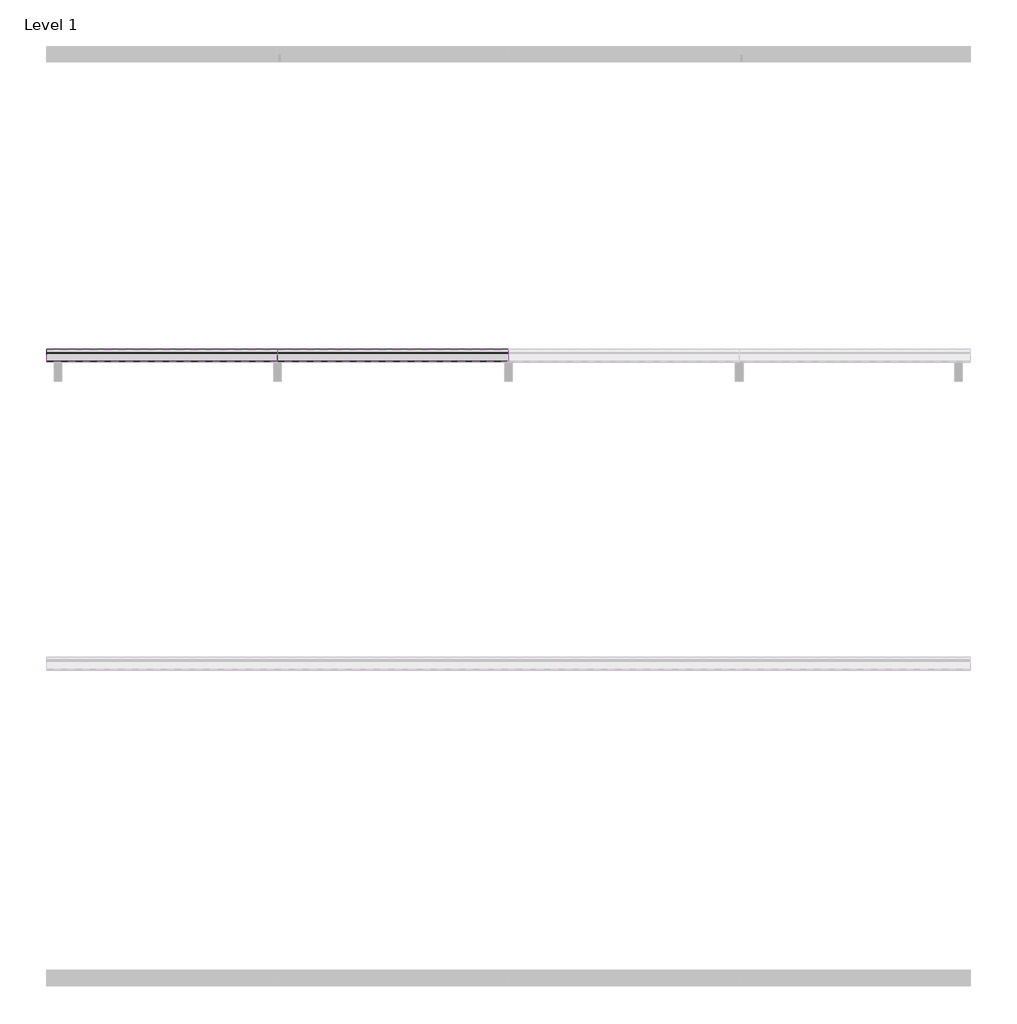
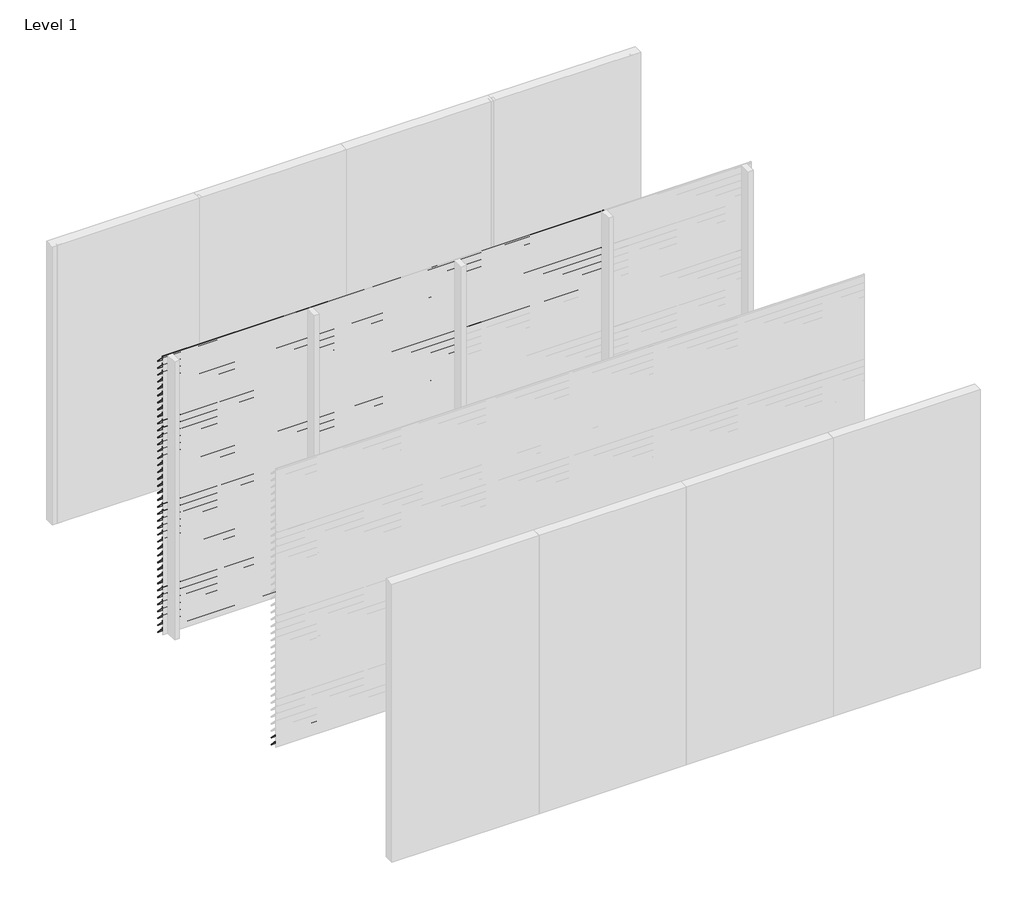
# One storey, part 2 of 9: 93 proxies.
"""IFC4 building model written with IfcOpenShell, lengths in millimetres."""

from ifc_helpers import new_model, si_unit, frame, origin, place, context, project, spatial, polyline, outline, extrude, element, save

model = new_model("IFC4")

# Units and contexts
model_context = context("Model", 3, world=origin())
ifc_project = project(units=[si_unit("LENGTHUNIT", "METRE", prefix="MILLI")], contexts=[model_context])

# Site, building, storey
site = spatial("IfcSite", under=ifc_project)
building = spatial("IfcBuilding", under=site)
storey = spatial("IfcBuildingStorey", under=building, Name="Level 1", Elevation=0.0)

# Proxies
placement = place(None, origin())
element("IfcBuildingElementProxy", 1, Name="Wall Sweeps", at=placement, inside=storey, context=model_context, shape_type="SweptSolid", body=[
    extrude(outline(polyline([(-17995.0, 3000.0), (-17995.0, 2987.7713645), (-17917.0, 2907.0), (-17917.0, 2898.0), (-17997.0, 2980.8424251), (-17997.0, 3000.0), (-17995.0, 3000.0)])), frame((3000.0, 0.0, 0.0), z_axis=(1.0, 0.0, 0.0), x_axis=(0.0, 1.0, 0.0)), (0.0, 0.0, 1.0), 1499.9999998),
])
element("IfcBuildingElementProxy", 2, Name="Wall Sweeps", at=placement, inside=storey, context=model_context, shape_type="SweptSolid", body=[
    extrude(outline(polyline([(-17995.0, 2925.0), (-17995.0, 2912.7713645), (-17917.0, 2832.0), (-17917.0, 2823.0), (-17997.0, 2905.8424251), (-17997.0, 2925.0), (-17995.0, 2925.0)])), frame((3000.0, 0.0, 0.0), z_axis=(1.0, 0.0, 0.0), x_axis=(0.0, 1.0, 0.0)), (0.0, 0.0, 1.0), 1499.9999998),
])
element("IfcBuildingElementProxy", 3, Name="Wall Sweeps", at=placement, inside=storey, context=model_context, shape_type="SweptSolid", body=[
    extrude(outline(polyline([(-17995.0, 2850.0), (-17995.0, 2837.7713645), (-17917.0, 2757.0), (-17917.0, 2748.0), (-17997.0, 2830.8424251), (-17997.0, 2850.0), (-17995.0, 2850.0)])), frame((3000.0, 0.0, 0.0), z_axis=(1.0, 0.0, 0.0), x_axis=(0.0, 1.0, 0.0)), (0.0, 0.0, 1.0), 1499.9999998),
])
element("IfcBuildingElementProxy", 4, Name="Wall Sweeps", at=placement, inside=storey, context=model_context, shape_type="SweptSolid", body=[
    extrude(outline(polyline([(-17995.0, 2775.0), (-17995.0, 2762.7713645), (-17917.0, 2682.0), (-17917.0, 2673.0), (-17997.0, 2755.8424251), (-17997.0, 2775.0), (-17995.0, 2775.0)])), frame((3000.0, 0.0, 0.0), z_axis=(1.0, 0.0, 0.0), x_axis=(0.0, 1.0, 0.0)), (0.0, 0.0, 1.0), 1499.9999998),
])
element("IfcBuildingElementProxy", 5, Name="Wall Sweeps", at=placement, inside=storey, context=model_context, shape_type="SweptSolid", body=[
    extrude(outline(polyline([(-17995.0, 2700.0), (-17995.0, 2687.7713645), (-17917.0, 2607.0), (-17917.0, 2598.0), (-17997.0, 2680.8424251), (-17997.0, 2700.0), (-17995.0, 2700.0)])), frame((3000.0, 0.0, 0.0), z_axis=(1.0, 0.0, 0.0), x_axis=(0.0, 1.0, 0.0)), (0.0, 0.0, 1.0), 1499.9999998),
])
element("IfcBuildingElementProxy", 6, Name="Wall Sweeps", at=placement, inside=storey, context=model_context, shape_type="SweptSolid", body=[
    extrude(outline(polyline([(-17995.0, 2625.0), (-17995.0, 2612.7713645), (-17917.0, 2532.0), (-17917.0, 2523.0), (-17997.0, 2605.8424251), (-17997.0, 2625.0), (-17995.0, 2625.0)])), frame((3000.0, 0.0, 0.0), z_axis=(1.0, 0.0, 0.0), x_axis=(0.0, 1.0, 0.0)), (0.0, 0.0, 1.0), 1499.9999998),
])
element("IfcBuildingElementProxy", 7, Name="Wall Sweeps", at=placement, inside=storey, context=model_context, shape_type="SweptSolid", body=[
    extrude(outline(polyline([(-17995.0, 2550.0), (-17995.0, 2537.7713645), (-17917.0, 2457.0), (-17917.0, 2448.0), (-17997.0, 2530.8424251), (-17997.0, 2550.0), (-17995.0, 2550.0)])), frame((3000.0, 0.0, 0.0), z_axis=(1.0, 0.0, 0.0), x_axis=(0.0, 1.0, 0.0)), (0.0, 0.0, 1.0), 1499.9999998),
])
element("IfcBuildingElementProxy", 8, Name="Wall Sweeps", at=placement, inside=storey, context=model_context, shape_type="SweptSolid", body=[
    extrude(outline(polyline([(-17995.0, 2475.0), (-17995.0, 2462.7713645), (-17917.0, 2382.0), (-17917.0, 2373.0), (-17997.0, 2455.8424251), (-17997.0, 2475.0), (-17995.0, 2475.0)])), frame((3000.0, 0.0, 0.0), z_axis=(1.0, 0.0, 0.0), x_axis=(0.0, 1.0, 0.0)), (0.0, 0.0, 1.0), 1499.9999998),
])
element("IfcBuildingElementProxy", 9, Name="Wall Sweeps", at=placement, inside=storey, context=model_context, shape_type="SweptSolid", body=[
    extrude(outline(polyline([(-17995.0, 2400.0), (-17995.0, 2387.7713645), (-17917.0, 2307.0), (-17917.0, 2298.0), (-17997.0, 2380.8424251), (-17997.0, 2400.0), (-17995.0, 2400.0)])), frame((3000.0, 0.0, 0.0), z_axis=(1.0, 0.0, 0.0), x_axis=(0.0, 1.0, 0.0)), (0.0, 0.0, 1.0), 1499.9999998),
])
element("IfcBuildingElementProxy", 10, Name="Wall Sweeps", at=placement, inside=storey, context=model_context, shape_type="SweptSolid", body=[
    extrude(outline(polyline([(-17995.0, 2325.0), (-17995.0, 2312.7713645), (-17917.0, 2232.0), (-17917.0, 2223.0), (-17997.0, 2305.8424251), (-17997.0, 2325.0), (-17995.0, 2325.0)])), frame((3000.0, 0.0, 0.0), z_axis=(1.0, 0.0, 0.0), x_axis=(0.0, 1.0, 0.0)), (0.0, 0.0, 1.0), 1499.9999998),
])
element("IfcBuildingElementProxy", 11, Name="Wall Sweeps", at=placement, inside=storey, context=model_context, shape_type="SweptSolid", body=[
    extrude(outline(polyline([(-17995.0, 2250.0), (-17995.0, 2237.7713645), (-17917.0, 2157.0), (-17917.0, 2148.0), (-17997.0, 2230.8424251), (-17997.0, 2250.0), (-17995.0, 2250.0)])), frame((3000.0, 0.0, 0.0), z_axis=(1.0, 0.0, 0.0), x_axis=(0.0, 1.0, 0.0)), (0.0, 0.0, 1.0), 1499.9999998),
])
element("IfcBuildingElementProxy", 12, Name="Wall Sweeps", at=placement, inside=storey, context=model_context, shape_type="SweptSolid", body=[
    extrude(outline(polyline([(-17995.0, 3000.0), (-17995.0, 2987.7713645), (-17917.0, 2907.0), (-17917.0, 2898.0), (-17997.0, 2980.8424251), (-17997.0, 3000.0), (-17995.0, 3000.0)])), frame((1500.0000002, 0.0, 0.0), z_axis=(1.0, 0.0, 0.0), x_axis=(0.0, 1.0, 0.0)), (0.0, 0.0, 1.0), 1499.9999998),
])
element("IfcBuildingElementProxy", 13, Name="Wall Sweeps", at=placement, inside=storey, context=model_context, shape_type="SweptSolid", body=[
    extrude(outline(polyline([(-17995.0, 2925.0), (-17995.0, 2912.7713645), (-17917.0, 2832.0), (-17917.0, 2823.0), (-17997.0, 2905.8424251), (-17997.0, 2925.0), (-17995.0, 2925.0)])), frame((1500.0000002, 0.0, 0.0), z_axis=(1.0, 0.0, 0.0), x_axis=(0.0, 1.0, 0.0)), (0.0, 0.0, 1.0), 1499.9999998),
])
element("IfcBuildingElementProxy", 14, Name="Wall Sweeps", at=placement, inside=storey, context=model_context, shape_type="SweptSolid", body=[
    extrude(outline(polyline([(-17995.0, 2850.0), (-17995.0, 2837.7713645), (-17917.0, 2757.0), (-17917.0, 2748.0), (-17997.0, 2830.8424251), (-17997.0, 2850.0), (-17995.0, 2850.0)])), frame((1500.0000002, 0.0, 0.0), z_axis=(1.0, 0.0, 0.0), x_axis=(0.0, 1.0, 0.0)), (0.0, 0.0, 1.0), 1499.9999998),
])
element("IfcBuildingElementProxy", 15, Name="Wall Sweeps", at=placement, inside=storey, context=model_context, shape_type="SweptSolid", body=[
    extrude(outline(polyline([(-17995.0, 2775.0), (-17995.0, 2762.7713645), (-17917.0, 2682.0), (-17917.0, 2673.0), (-17997.0, 2755.8424251), (-17997.0, 2775.0), (-17995.0, 2775.0)])), frame((1500.0000002, 0.0, 0.0), z_axis=(1.0, 0.0, 0.0), x_axis=(0.0, 1.0, 0.0)), (0.0, 0.0, 1.0), 1499.9999998),
])
element("IfcBuildingElementProxy", 16, Name="Wall Sweeps", at=placement, inside=storey, context=model_context, shape_type="SweptSolid", body=[
    extrude(outline(polyline([(-17995.0, 2700.0), (-17995.0, 2687.7713645), (-17917.0, 2607.0), (-17917.0, 2598.0), (-17997.0, 2680.8424251), (-17997.0, 2700.0), (-17995.0, 2700.0)])), frame((1500.0000002, 0.0, 0.0), z_axis=(1.0, 0.0, 0.0), x_axis=(0.0, 1.0, 0.0)), (0.0, 0.0, 1.0), 1499.9999998),
])
element("IfcBuildingElementProxy", 17, Name="Wall Sweeps", at=placement, inside=storey, context=model_context, shape_type="SweptSolid", body=[
    extrude(outline(polyline([(-17995.0, 2625.0), (-17995.0, 2612.7713645), (-17917.0, 2532.0), (-17917.0, 2523.0), (-17997.0, 2605.8424251), (-17997.0, 2625.0), (-17995.0, 2625.0)])), frame((1500.0000002, 0.0, 0.0), z_axis=(1.0, 0.0, 0.0), x_axis=(0.0, 1.0, 0.0)), (0.0, 0.0, 1.0), 1499.9999998),
])
element("IfcBuildingElementProxy", 18, Name="Wall Sweeps", at=placement, inside=storey, context=model_context, shape_type="SweptSolid", body=[
    extrude(outline(polyline([(-17995.0, 2550.0), (-17995.0, 2537.7713645), (-17917.0, 2457.0), (-17917.0, 2448.0), (-17997.0, 2530.8424251), (-17997.0, 2550.0), (-17995.0, 2550.0)])), frame((1500.0000002, 0.0, 0.0), z_axis=(1.0, 0.0, 0.0), x_axis=(0.0, 1.0, 0.0)), (0.0, 0.0, 1.0), 1499.9999998),
])
element("IfcBuildingElementProxy", 19, Name="Wall Sweeps", at=placement, inside=storey, context=model_context, shape_type="SweptSolid", body=[
    extrude(outline(polyline([(-17995.0, 2475.0), (-17995.0, 2462.7713645), (-17917.0, 2382.0), (-17917.0, 2373.0), (-17997.0, 2455.8424251), (-17997.0, 2475.0), (-17995.0, 2475.0)])), frame((1500.0000002, 0.0, 0.0), z_axis=(1.0, 0.0, 0.0), x_axis=(0.0, 1.0, 0.0)), (0.0, 0.0, 1.0), 1499.9999998),
])
element("IfcBuildingElementProxy", 20, Name="Wall Sweeps", at=placement, inside=storey, context=model_context, shape_type="SweptSolid", body=[
    extrude(outline(polyline([(-17995.0, 2400.0), (-17995.0, 2387.7713645), (-17917.0, 2307.0), (-17917.0, 2298.0), (-17997.0, 2380.8424251), (-17997.0, 2400.0), (-17995.0, 2400.0)])), frame((1500.0000002, 0.0, 0.0), z_axis=(1.0, 0.0, 0.0), x_axis=(0.0, 1.0, 0.0)), (0.0, 0.0, 1.0), 1499.9999998),
])
element("IfcBuildingElementProxy", 21, Name="Wall Sweeps", at=placement, inside=storey, context=model_context, shape_type="SweptSolid", body=[
    extrude(outline(polyline([(-17995.0, 2325.0), (-17995.0, 2312.7713645), (-17917.0, 2232.0), (-17917.0, 2223.0), (-17997.0, 2305.8424251), (-17997.0, 2325.0), (-17995.0, 2325.0)])), frame((1500.0000002, 0.0, 0.0), z_axis=(1.0, 0.0, 0.0), x_axis=(0.0, 1.0, 0.0)), (0.0, 0.0, 1.0), 1499.9999998),
])
element("IfcBuildingElementProxy", 22, Name="Wall Sweeps", at=placement, inside=storey, context=model_context, shape_type="SweptSolid", body=[
    extrude(outline(polyline([(-17995.0, 2250.0), (-17995.0, 2237.7713645), (-17917.0, 2157.0), (-17917.0, 2148.0), (-17997.0, 2230.8424251), (-17997.0, 2250.0), (-17995.0, 2250.0)])), frame((1500.0000002, 0.0, 0.0), z_axis=(1.0, 0.0, 0.0), x_axis=(0.0, 1.0, 0.0)), (0.0, 0.0, 1.0), 1499.9999998),
])
element("IfcBuildingElementProxy", 23, Name="Wall Sweeps", at=placement, inside=storey, context=model_context, shape_type="SweptSolid", body=[
    extrude(outline(polyline([(-17995.0, 2175.0), (-17995.0, 2162.7713645), (-17917.0, 2082.0), (-17917.0, 2073.0), (-17997.0, 2155.8424251), (-17997.0, 2175.0), (-17995.0, 2175.0)])), frame((1500.0000002, 0.0, 0.0), z_axis=(1.0, 0.0, 0.0), x_axis=(0.0, 1.0, 0.0)), (0.0, 0.0, 1.0), 1499.9999998),
])
element("IfcBuildingElementProxy", 24, Name="Wall Sweeps", at=placement, inside=storey, context=model_context, shape_type="SweptSolid", body=[
    extrude(outline(polyline([(-17995.0, 2100.0), (-17995.0, 2087.7713645), (-17917.0, 2007.0), (-17917.0, 1998.0), (-17997.0, 2080.8424251), (-17997.0, 2100.0), (-17995.0, 2100.0)])), frame((1500.0000002, 0.0, 0.0), z_axis=(1.0, 0.0, 0.0), x_axis=(0.0, 1.0, 0.0)), (0.0, 0.0, 1.0), 1499.9999998),
])
element("IfcBuildingElementProxy", 25, Name="Wall Sweeps", at=placement, inside=storey, context=model_context, shape_type="SweptSolid", body=[
    extrude(outline(polyline([(-17995.0, 2025.0), (-17995.0, 2012.7713645), (-17917.0, 1932.0), (-17917.0, 1923.0), (-17997.0, 2005.8424251), (-17997.0, 2025.0), (-17995.0, 2025.0)])), frame((1500.0000002, 0.0, 0.0), z_axis=(1.0, 0.0, 0.0), x_axis=(0.0, 1.0, 0.0)), (0.0, 0.0, 1.0), 1499.9999998),
])
element("IfcBuildingElementProxy", 26, Name="Wall Sweeps", at=placement, inside=storey, context=model_context, shape_type="SweptSolid", body=[
    extrude(outline(polyline([(-17995.0, 1950.0), (-17995.0, 1937.7713645), (-17917.0, 1857.0), (-17917.0, 1848.0), (-17997.0, 1930.8424251), (-17997.0, 1950.0), (-17995.0, 1950.0)])), frame((1500.0000002, 0.0, 0.0), z_axis=(1.0, 0.0, 0.0), x_axis=(0.0, 1.0, 0.0)), (0.0, 0.0, 1.0), 1499.9999998),
])
element("IfcBuildingElementProxy", 27, Name="Wall Sweeps", at=placement, inside=storey, context=model_context, shape_type="SweptSolid", body=[
    extrude(outline(polyline([(-17995.0, 1875.0), (-17995.0, 1862.7713645), (-17917.0, 1782.0), (-17917.0, 1773.0), (-17997.0, 1855.8424251), (-17997.0, 1875.0), (-17995.0, 1875.0)])), frame((1500.0000002, 0.0, 0.0), z_axis=(1.0, 0.0, 0.0), x_axis=(0.0, 1.0, 0.0)), (0.0, 0.0, 1.0), 1499.9999998),
])
element("IfcBuildingElementProxy", 28, Name="Wall Sweeps", at=placement, inside=storey, context=model_context, shape_type="SweptSolid", body=[
    extrude(outline(polyline([(-17995.0, 1800.0), (-17995.0, 1787.7713645), (-17917.0, 1707.0), (-17917.0, 1698.0), (-17997.0, 1780.8424251), (-17997.0, 1800.0), (-17995.0, 1800.0)])), frame((1500.0000002, 0.0, 0.0), z_axis=(1.0, 0.0, 0.0), x_axis=(0.0, 1.0, 0.0)), (0.0, 0.0, 1.0), 1499.9999998),
])
element("IfcBuildingElementProxy", 29, Name="Wall Sweeps", at=placement, inside=storey, context=model_context, shape_type="SweptSolid", body=[
    extrude(outline(polyline([(-17995.0, 1725.0), (-17995.0, 1712.7713645), (-17917.0, 1632.0), (-17917.0, 1623.0), (-17997.0, 1705.8424251), (-17997.0, 1725.0), (-17995.0, 1725.0)])), frame((1500.0000002, 0.0, 0.0), z_axis=(1.0, 0.0, 0.0), x_axis=(0.0, 1.0, 0.0)), (0.0, 0.0, 1.0), 1499.9999998),
])
element("IfcBuildingElementProxy", 30, Name="Wall Sweeps", at=placement, inside=storey, context=model_context, shape_type="SweptSolid", body=[
    extrude(outline(polyline([(-17995.0, 1650.0), (-17995.0, 1637.7713645), (-17917.0, 1557.0), (-17917.0, 1548.0), (-17997.0, 1630.8424251), (-17997.0, 1650.0), (-17995.0, 1650.0)])), frame((1500.0000002, 0.0, 0.0), z_axis=(1.0, 0.0, 0.0), x_axis=(0.0, 1.0, 0.0)), (0.0, 0.0, 1.0), 1499.9999998),
])
element("IfcBuildingElementProxy", 31, Name="Wall Sweeps", at=placement, inside=storey, context=model_context, shape_type="SweptSolid", body=[
    extrude(outline(polyline([(-17995.0, 1575.0), (-17995.0, 1562.7713645), (-17917.0, 1482.0), (-17917.0, 1473.0), (-17997.0, 1555.8424251), (-17997.0, 1575.0), (-17995.0, 1575.0)])), frame((1500.0000002, 0.0, 0.0), z_axis=(1.0, 0.0, 0.0), x_axis=(0.0, 1.0, 0.0)), (0.0, 0.0, 1.0), 1499.9999998),
])
element("IfcBuildingElementProxy", 32, Name="Wall Sweeps", at=placement, inside=storey, context=model_context, shape_type="SweptSolid", body=[
    extrude(outline(polyline([(-17995.0, 1500.0), (-17995.0, 1487.7713645), (-17917.0, 1407.0), (-17917.0, 1398.0), (-17997.0, 1480.8424251), (-17997.0, 1500.0), (-17995.0, 1500.0)])), frame((1500.0000002, 0.0, 0.0), z_axis=(1.0, 0.0, 0.0), x_axis=(0.0, 1.0, 0.0)), (0.0, 0.0, 1.0), 1499.9999998),
])
element("IfcBuildingElementProxy", 33, Name="Wall Sweeps", at=placement, inside=storey, context=model_context, shape_type="SweptSolid", body=[
    extrude(outline(polyline([(-17995.0, 1425.0), (-17995.0, 1412.7713645), (-17917.0, 1332.0), (-17917.0, 1323.0), (-17997.0, 1405.8424251), (-17997.0, 1425.0), (-17995.0, 1425.0)])), frame((1500.0000002, 0.0, 0.0), z_axis=(1.0, 0.0, 0.0), x_axis=(0.0, 1.0, 0.0)), (0.0, 0.0, 1.0), 1499.9999998),
])
element("IfcBuildingElementProxy", 34, Name="Wall Sweeps", at=placement, inside=storey, context=model_context, shape_type="SweptSolid", body=[
    extrude(outline(polyline([(-17995.0, 1350.0), (-17995.0, 1337.7713645), (-17917.0, 1257.0), (-17917.0, 1248.0), (-17997.0, 1330.8424251), (-17997.0, 1350.0), (-17995.0, 1350.0)])), frame((1500.0000002, 0.0, 0.0), z_axis=(1.0, 0.0, 0.0), x_axis=(0.0, 1.0, 0.0)), (0.0, 0.0, 1.0), 1499.9999998),
])
element("IfcBuildingElementProxy", 35, Name="Wall Sweeps", at=placement, inside=storey, context=model_context, shape_type="SweptSolid", body=[
    extrude(outline(polyline([(-17995.0, 1275.0), (-17995.0, 1262.7713645), (-17917.0, 1182.0), (-17917.0, 1173.0), (-17997.0, 1255.8424251), (-17997.0, 1275.0), (-17995.0, 1275.0)])), frame((1500.0000002, 0.0, 0.0), z_axis=(1.0, 0.0, 0.0), x_axis=(0.0, 1.0, 0.0)), (0.0, 0.0, 1.0), 1499.9999998),
])
element("IfcBuildingElementProxy", 36, Name="Wall Sweeps", at=placement, inside=storey, context=model_context, shape_type="SweptSolid", body=[
    extrude(outline(polyline([(-17995.0, 1200.0), (-17995.0, 1187.7713645), (-17917.0, 1107.0), (-17917.0, 1098.0), (-17997.0, 1180.8424251), (-17997.0, 1200.0), (-17995.0, 1200.0)])), frame((1500.0000002, 0.0, 0.0), z_axis=(1.0, 0.0, 0.0), x_axis=(0.0, 1.0, 0.0)), (0.0, 0.0, 1.0), 1499.9999998),
])
element("IfcBuildingElementProxy", 37, Name="Wall Sweeps", at=placement, inside=storey, context=model_context, shape_type="SweptSolid", body=[
    extrude(outline(polyline([(-17995.0, 1125.0), (-17995.0, 1112.7713645), (-17917.0, 1032.0), (-17917.0, 1023.0), (-17997.0, 1105.8424251), (-17997.0, 1125.0), (-17995.0, 1125.0)])), frame((1500.0000002, 0.0, 0.0), z_axis=(1.0, 0.0, 0.0), x_axis=(0.0, 1.0, 0.0)), (0.0, 0.0, 1.0), 1499.9999998),
])
element("IfcBuildingElementProxy", 38, Name="Wall Sweeps", at=placement, inside=storey, context=model_context, shape_type="SweptSolid", body=[
    extrude(outline(polyline([(-17995.0, 1050.0), (-17995.0, 1037.7713645), (-17917.0, 957.0), (-17917.0, 948.0), (-17997.0, 1030.8424251), (-17997.0, 1050.0), (-17995.0, 1050.0)])), frame((1500.0000002, 0.0, 0.0), z_axis=(1.0, 0.0, 0.0), x_axis=(0.0, 1.0, 0.0)), (0.0, 0.0, 1.0), 1499.9999998),
])
element("IfcBuildingElementProxy", 39, Name="Wall Sweeps", at=placement, inside=storey, context=model_context, shape_type="SweptSolid", body=[
    extrude(outline(polyline([(-17995.0, 975.0), (-17995.0, 962.7713645), (-17917.0, 882.0), (-17917.0, 873.0), (-17997.0, 955.8424251), (-17997.0, 975.0), (-17995.0, 975.0)])), frame((1500.0000002, 0.0, 0.0), z_axis=(1.0, 0.0, 0.0), x_axis=(0.0, 1.0, 0.0)), (0.0, 0.0, 1.0), 1499.9999998),
])
element("IfcBuildingElementProxy", 40, Name="Wall Sweeps", at=placement, inside=storey, context=model_context, shape_type="SweptSolid", body=[
    extrude(outline(polyline([(-17995.0, 900.0), (-17995.0, 887.7713645), (-17917.0, 807.0), (-17917.0, 798.0), (-17997.0, 880.8424251), (-17997.0, 900.0), (-17995.0, 900.0)])), frame((1500.0000002, 0.0, 0.0), z_axis=(1.0, 0.0, 0.0), x_axis=(0.0, 1.0, 0.0)), (0.0, 0.0, 1.0), 1499.9999998),
])
element("IfcBuildingElementProxy", 41, Name="Wall Sweeps", at=placement, inside=storey, context=model_context, shape_type="SweptSolid", body=[
    extrude(outline(polyline([(-17995.0, 825.0), (-17995.0, 812.7713645), (-17917.0, 732.0), (-17917.0, 723.0), (-17997.0, 805.8424251), (-17997.0, 825.0), (-17995.0, 825.0)])), frame((1500.0000002, 0.0, 0.0), z_axis=(1.0, 0.0, 0.0), x_axis=(0.0, 1.0, 0.0)), (0.0, 0.0, 1.0), 1499.9999998),
])
element("IfcBuildingElementProxy", 42, Name="Wall Sweeps", at=placement, inside=storey, context=model_context, shape_type="SweptSolid", body=[
    extrude(outline(polyline([(-17995.0, 750.0), (-17995.0, 737.7713645), (-17917.0, 657.0), (-17917.0, 648.0), (-17997.0, 730.8424251), (-17997.0, 750.0), (-17995.0, 750.0)])), frame((1500.0000002, 0.0, 0.0), z_axis=(1.0, 0.0, 0.0), x_axis=(0.0, 1.0, 0.0)), (0.0, 0.0, 1.0), 1499.9999998),
])
element("IfcBuildingElementProxy", 43, Name="Wall Sweeps", at=placement, inside=storey, context=model_context, shape_type="SweptSolid", body=[
    extrude(outline(polyline([(-17995.0, 675.0), (-17995.0, 662.7713645), (-17917.0, 582.0), (-17917.0, 573.0), (-17997.0, 655.8424251), (-17997.0, 675.0), (-17995.0, 675.0)])), frame((1500.0000002, 0.0, 0.0), z_axis=(1.0, 0.0, 0.0), x_axis=(0.0, 1.0, 0.0)), (0.0, 0.0, 1.0), 1499.9999998),
])
element("IfcBuildingElementProxy", 44, Name="Wall Sweeps", at=placement, inside=storey, context=model_context, shape_type="SweptSolid", body=[
    extrude(outline(polyline([(-17995.0, 600.0), (-17995.0, 587.7713645), (-17917.0, 507.0), (-17917.0, 498.0), (-17997.0, 580.8424251), (-17997.0, 600.0), (-17995.0, 600.0)])), frame((1500.0000002, 0.0, 0.0), z_axis=(1.0, 0.0, 0.0), x_axis=(0.0, 1.0, 0.0)), (0.0, 0.0, 1.0), 1499.9999998),
])
element("IfcBuildingElementProxy", 45, Name="Wall Sweeps", at=placement, inside=storey, context=model_context, shape_type="SweptSolid", body=[
    extrude(outline(polyline([(-17995.0, 525.0), (-17995.0, 512.7713645), (-17917.0, 432.0), (-17917.0, 423.0), (-17997.0, 505.8424251), (-17997.0, 525.0), (-17995.0, 525.0)])), frame((1500.0000002, 0.0, 0.0), z_axis=(1.0, 0.0, 0.0), x_axis=(0.0, 1.0, 0.0)), (0.0, 0.0, 1.0), 1499.9999998),
])
element("IfcBuildingElementProxy", 46, Name="Wall Sweeps", at=placement, inside=storey, context=model_context, shape_type="SweptSolid", body=[
    extrude(outline(polyline([(-17995.0, 450.0), (-17995.0, 437.7713645), (-17917.0, 357.0), (-17917.0, 348.0), (-17997.0, 430.8424251), (-17997.0, 450.0), (-17995.0, 450.0)])), frame((1500.0000002, 0.0, 0.0), z_axis=(1.0, 0.0, 0.0), x_axis=(0.0, 1.0, 0.0)), (0.0, 0.0, 1.0), 1499.9999998),
])
element("IfcBuildingElementProxy", 47, Name="Wall Sweeps", at=placement, inside=storey, context=model_context, shape_type="SweptSolid", body=[
    extrude(outline(polyline([(-17995.0, 375.0), (-17995.0, 362.7713645), (-17917.0, 282.0), (-17917.0, 273.0), (-17997.0, 355.8424251), (-17997.0, 375.0), (-17995.0, 375.0)])), frame((1500.0000002, 0.0, 0.0), z_axis=(1.0, 0.0, 0.0), x_axis=(0.0, 1.0, 0.0)), (0.0, 0.0, 1.0), 1499.9999998),
])
element("IfcBuildingElementProxy", 48, Name="Wall Sweeps", at=placement, inside=storey, context=model_context, shape_type="SweptSolid", body=[
    extrude(outline(polyline([(-17995.0, 300.0), (-17995.0, 287.7713645), (-17917.0, 207.0), (-17917.0, 198.0), (-17997.0, 280.8424251), (-17997.0, 300.0), (-17995.0, 300.0)])), frame((1500.0000002, 0.0, 0.0), z_axis=(1.0, 0.0, 0.0), x_axis=(0.0, 1.0, 0.0)), (0.0, 0.0, 1.0), 1499.9999998),
])
element("IfcBuildingElementProxy", 49, Name="Wall Sweeps", at=placement, inside=storey, context=model_context, shape_type="SweptSolid", body=[
    extrude(outline(polyline([(-17995.0, 225.0), (-17995.0, 212.7713645), (-17917.0, 132.0), (-17917.0, 123.0), (-17997.0, 205.8424251), (-17997.0, 225.0), (-17995.0, 225.0)])), frame((1500.0000002, 0.0, 0.0), z_axis=(1.0, 0.0, 0.0), x_axis=(0.0, 1.0, 0.0)), (0.0, 0.0, 1.0), 1499.9999998),
])
element("IfcBuildingElementProxy", 50, Name="Wall Sweeps", at=placement, inside=storey, context=model_context, shape_type="SweptSolid", body=[
    extrude(outline(polyline([(-17995.0, 150.0), (-17995.0, 137.7713645), (-17917.0, 57.0), (-17917.0, 48.0), (-17997.0, 130.8424251), (-17997.0, 150.0), (-17995.0, 150.0)])), frame((1500.0000002, 0.0, 0.0), z_axis=(1.0, 0.0, 0.0), x_axis=(0.0, 1.0, 0.0)), (0.0, 0.0, 1.0), 1499.9999998),
])
element("IfcBuildingElementProxy", 51, Name="Wall Sweeps", at=placement, inside=storey, context=model_context, shape_type="SweptSolid", body=[
    extrude(outline(polyline([(-17995.0, 75.0), (-17995.0, 62.7713645), (-17917.0, -18.0), (-17917.0, -27.0), (-17997.0, 55.8424251), (-17997.0, 75.0), (-17995.0, 75.0)])), frame((1500.0000002, 0.0, 0.0), z_axis=(1.0, 0.0, 0.0), x_axis=(0.0, 1.0, 0.0)), (0.0, 0.0, 1.0), 1499.9999998),
])
element("IfcBuildingElementProxy", 52, Name="Wall Sweeps", at=placement, inside=storey, context=model_context, shape_type="SweptSolid", body=[
    extrude(outline(polyline([(-17995.0, 3000.0), (-17995.0, 2987.7713645), (-17917.0, 2907.0), (-17917.0, 2898.0), (-17997.0, 2980.8424251), (-17997.0, 3000.0), (-17995.0, 3000.0)])), frame((0.0, 0.0, 0.0), z_axis=(1.0, 0.0, 0.0), x_axis=(0.0, 1.0, 0.0)), (0.0, 0.0, 1.0), 1500.0000002),
])
element("IfcBuildingElementProxy", 53, Name="Wall Sweeps", at=placement, inside=storey, context=model_context, shape_type="SweptSolid", body=[
    extrude(outline(polyline([(-17995.0, 2925.0), (-17995.0, 2912.7713645), (-17917.0, 2832.0), (-17917.0, 2823.0), (-17997.0, 2905.8424251), (-17997.0, 2925.0), (-17995.0, 2925.0)])), frame((0.0, 0.0, 0.0), z_axis=(1.0, 0.0, 0.0), x_axis=(0.0, 1.0, 0.0)), (0.0, 0.0, 1.0), 1500.0000002),
])
element("IfcBuildingElementProxy", 54, Name="Wall Sweeps", at=placement, inside=storey, context=model_context, shape_type="SweptSolid", body=[
    extrude(outline(polyline([(-17995.0, 2850.0), (-17995.0, 2837.7713645), (-17917.0, 2757.0), (-17917.0, 2748.0), (-17997.0, 2830.8424251), (-17997.0, 2850.0), (-17995.0, 2850.0)])), frame((0.0, 0.0, 0.0), z_axis=(1.0, 0.0, 0.0), x_axis=(0.0, 1.0, 0.0)), (0.0, 0.0, 1.0), 1500.0000002),
])
element("IfcBuildingElementProxy", 55, Name="Wall Sweeps", at=placement, inside=storey, context=model_context, shape_type="SweptSolid", body=[
    extrude(outline(polyline([(-17995.0, 2775.0), (-17995.0, 2762.7713645), (-17917.0, 2682.0), (-17917.0, 2673.0), (-17997.0, 2755.8424251), (-17997.0, 2775.0), (-17995.0, 2775.0)])), frame((0.0, 0.0, 0.0), z_axis=(1.0, 0.0, 0.0), x_axis=(0.0, 1.0, 0.0)), (0.0, 0.0, 1.0), 1500.0000002),
])
element("IfcBuildingElementProxy", 56, Name="Wall Sweeps", at=placement, inside=storey, context=model_context, shape_type="SweptSolid", body=[
    extrude(outline(polyline([(-17995.0, 2700.0), (-17995.0, 2687.7713645), (-17917.0, 2607.0), (-17917.0, 2598.0), (-17997.0, 2680.8424251), (-17997.0, 2700.0), (-17995.0, 2700.0)])), frame((0.0, 0.0, 0.0), z_axis=(1.0, 0.0, 0.0), x_axis=(0.0, 1.0, 0.0)), (0.0, 0.0, 1.0), 1500.0000002),
])
element("IfcBuildingElementProxy", 57, Name="Wall Sweeps", at=placement, inside=storey, context=model_context, shape_type="SweptSolid", body=[
    extrude(outline(polyline([(-17995.0, 2625.0), (-17995.0, 2612.7713645), (-17917.0, 2532.0), (-17917.0, 2523.0), (-17997.0, 2605.8424251), (-17997.0, 2625.0), (-17995.0, 2625.0)])), frame((0.0, 0.0, 0.0), z_axis=(1.0, 0.0, 0.0), x_axis=(0.0, 1.0, 0.0)), (0.0, 0.0, 1.0), 1500.0000002),
])
element("IfcBuildingElementProxy", 58, Name="Wall Sweeps", at=placement, inside=storey, context=model_context, shape_type="SweptSolid", body=[
    extrude(outline(polyline([(-17995.0, 2550.0), (-17995.0, 2537.7713645), (-17917.0, 2457.0), (-17917.0, 2448.0), (-17997.0, 2530.8424251), (-17997.0, 2550.0), (-17995.0, 2550.0)])), frame((0.0, 0.0, 0.0), z_axis=(1.0, 0.0, 0.0), x_axis=(0.0, 1.0, 0.0)), (0.0, 0.0, 1.0), 1500.0000002),
])
element("IfcBuildingElementProxy", 59, Name="Wall Sweeps", at=placement, inside=storey, context=model_context, shape_type="SweptSolid", body=[
    extrude(outline(polyline([(-17995.0, 2475.0), (-17995.0, 2462.7713645), (-17917.0, 2382.0), (-17917.0, 2373.0), (-17997.0, 2455.8424251), (-17997.0, 2475.0), (-17995.0, 2475.0)])), frame((0.0, 0.0, 0.0), z_axis=(1.0, 0.0, 0.0), x_axis=(0.0, 1.0, 0.0)), (0.0, 0.0, 1.0), 1500.0000002),
])
element("IfcBuildingElementProxy", 60, Name="Wall Sweeps", at=placement, inside=storey, context=model_context, shape_type="SweptSolid", body=[
    extrude(outline(polyline([(-17995.0, 2400.0), (-17995.0, 2387.7713645), (-17917.0, 2307.0), (-17917.0, 2298.0), (-17997.0, 2380.8424251), (-17997.0, 2400.0), (-17995.0, 2400.0)])), frame((0.0, 0.0, 0.0), z_axis=(1.0, 0.0, 0.0), x_axis=(0.0, 1.0, 0.0)), (0.0, 0.0, 1.0), 1500.0000002),
])
element("IfcBuildingElementProxy", 61, Name="Wall Sweeps", at=placement, inside=storey, context=model_context, shape_type="SweptSolid", body=[
    extrude(outline(polyline([(-17995.0, 2325.0), (-17995.0, 2312.7713645), (-17917.0, 2232.0), (-17917.0, 2223.0), (-17997.0, 2305.8424251), (-17997.0, 2325.0), (-17995.0, 2325.0)])), frame((0.0, 0.0, 0.0), z_axis=(1.0, 0.0, 0.0), x_axis=(0.0, 1.0, 0.0)), (0.0, 0.0, 1.0), 1500.0000002),
])
element("IfcBuildingElementProxy", 62, Name="Wall Sweeps", at=placement, inside=storey, context=model_context, shape_type="SweptSolid", body=[
    extrude(outline(polyline([(-17995.0, 2250.0), (-17995.0, 2237.7713645), (-17917.0, 2157.0), (-17917.0, 2148.0), (-17997.0, 2230.8424251), (-17997.0, 2250.0), (-17995.0, 2250.0)])), frame((0.0, 0.0, 0.0), z_axis=(1.0, 0.0, 0.0), x_axis=(0.0, 1.0, 0.0)), (0.0, 0.0, 1.0), 1500.0000002),
])
element("IfcBuildingElementProxy", 63, Name="Wall Sweeps", at=placement, inside=storey, context=model_context, shape_type="SweptSolid", body=[
    extrude(outline(polyline([(-17995.0, 2175.0), (-17995.0, 2162.7713645), (-17917.0, 2082.0), (-17917.0, 2073.0), (-17997.0, 2155.8424251), (-17997.0, 2175.0), (-17995.0, 2175.0)])), frame((0.0, 0.0, 0.0), z_axis=(1.0, 0.0, 0.0), x_axis=(0.0, 1.0, 0.0)), (0.0, 0.0, 1.0), 1500.0000002),
])
element("IfcBuildingElementProxy", 64, Name="Wall Sweeps", at=placement, inside=storey, context=model_context, shape_type="SweptSolid", body=[
    extrude(outline(polyline([(-17995.0, 2100.0), (-17995.0, 2087.7713645), (-17917.0, 2007.0), (-17917.0, 1998.0), (-17997.0, 2080.8424251), (-17997.0, 2100.0), (-17995.0, 2100.0)])), frame((0.0, 0.0, 0.0), z_axis=(1.0, 0.0, 0.0), x_axis=(0.0, 1.0, 0.0)), (0.0, 0.0, 1.0), 1500.0000002),
])
element("IfcBuildingElementProxy", 65, Name="Wall Sweeps", at=placement, inside=storey, context=model_context, shape_type="SweptSolid", body=[
    extrude(outline(polyline([(-17995.0, 2025.0), (-17995.0, 2012.7713645), (-17917.0, 1932.0), (-17917.0, 1923.0), (-17997.0, 2005.8424251), (-17997.0, 2025.0), (-17995.0, 2025.0)])), frame((0.0, 0.0, 0.0), z_axis=(1.0, 0.0, 0.0), x_axis=(0.0, 1.0, 0.0)), (0.0, 0.0, 1.0), 1500.0000002),
])
element("IfcBuildingElementProxy", 66, Name="Wall Sweeps", at=placement, inside=storey, context=model_context, shape_type="SweptSolid", body=[
    extrude(outline(polyline([(-17995.0, 1950.0), (-17995.0, 1937.7713645), (-17917.0, 1857.0), (-17917.0, 1848.0), (-17997.0, 1930.8424251), (-17997.0, 1950.0), (-17995.0, 1950.0)])), frame((0.0, 0.0, 0.0), z_axis=(1.0, 0.0, 0.0), x_axis=(0.0, 1.0, 0.0)), (0.0, 0.0, 1.0), 1500.0000002),
])
element("IfcBuildingElementProxy", 67, Name="Wall Sweeps", at=placement, inside=storey, context=model_context, shape_type="SweptSolid", body=[
    extrude(outline(polyline([(-17995.0, 1875.0), (-17995.0, 1862.7713645), (-17917.0, 1782.0), (-17917.0, 1773.0), (-17997.0, 1855.8424251), (-17997.0, 1875.0), (-17995.0, 1875.0)])), frame((0.0, 0.0, 0.0), z_axis=(1.0, 0.0, 0.0), x_axis=(0.0, 1.0, 0.0)), (0.0, 0.0, 1.0), 1500.0000002),
])
element("IfcBuildingElementProxy", 68, Name="Wall Sweeps", at=placement, inside=storey, context=model_context, shape_type="SweptSolid", body=[
    extrude(outline(polyline([(-17995.0, 1800.0), (-17995.0, 1787.7713645), (-17917.0, 1707.0), (-17917.0, 1698.0), (-17997.0, 1780.8424251), (-17997.0, 1800.0), (-17995.0, 1800.0)])), frame((0.0, 0.0, 0.0), z_axis=(1.0, 0.0, 0.0), x_axis=(0.0, 1.0, 0.0)), (0.0, 0.0, 1.0), 1500.0000002),
])
element("IfcBuildingElementProxy", 69, Name="Wall Sweeps", at=placement, inside=storey, context=model_context, shape_type="SweptSolid", body=[
    extrude(outline(polyline([(-17995.0, 1725.0), (-17995.0, 1712.7713645), (-17917.0, 1632.0), (-17917.0, 1623.0), (-17997.0, 1705.8424251), (-17997.0, 1725.0), (-17995.0, 1725.0)])), frame((0.0, 0.0, 0.0), z_axis=(1.0, 0.0, 0.0), x_axis=(0.0, 1.0, 0.0)), (0.0, 0.0, 1.0), 1500.0000002),
])
element("IfcBuildingElementProxy", 70, Name="Wall Sweeps", at=placement, inside=storey, context=model_context, shape_type="SweptSolid", body=[
    extrude(outline(polyline([(-17995.0, 1650.0), (-17995.0, 1637.7713645), (-17917.0, 1557.0), (-17917.0, 1548.0), (-17997.0, 1630.8424251), (-17997.0, 1650.0), (-17995.0, 1650.0)])), frame((0.0, 0.0, 0.0), z_axis=(1.0, 0.0, 0.0), x_axis=(0.0, 1.0, 0.0)), (0.0, 0.0, 1.0), 1500.0000002),
])
element("IfcBuildingElementProxy", 71, Name="Wall Sweeps", at=placement, inside=storey, context=model_context, shape_type="SweptSolid", body=[
    extrude(outline(polyline([(-17995.0, 1575.0), (-17995.0, 1562.7713645), (-17917.0, 1482.0), (-17917.0, 1473.0), (-17997.0, 1555.8424251), (-17997.0, 1575.0), (-17995.0, 1575.0)])), frame((0.0, 0.0, 0.0), z_axis=(1.0, 0.0, 0.0), x_axis=(0.0, 1.0, 0.0)), (0.0, 0.0, 1.0), 1500.0000002),
])
element("IfcBuildingElementProxy", 72, Name="Wall Sweeps", at=placement, inside=storey, context=model_context, shape_type="SweptSolid", body=[
    extrude(outline(polyline([(-17995.0, 1500.0), (-17995.0, 1487.7713645), (-17917.0, 1407.0), (-17917.0, 1398.0), (-17997.0, 1480.8424251), (-17997.0, 1500.0), (-17995.0, 1500.0)])), frame((0.0, 0.0, 0.0), z_axis=(1.0, 0.0, 0.0), x_axis=(0.0, 1.0, 0.0)), (0.0, 0.0, 1.0), 1500.0000002),
])
element("IfcBuildingElementProxy", 73, Name="Wall Sweeps", at=placement, inside=storey, context=model_context, shape_type="SweptSolid", body=[
    extrude(outline(polyline([(-17995.0, 1425.0), (-17995.0, 1412.7713645), (-17917.0, 1332.0), (-17917.0, 1323.0), (-17997.0, 1405.8424251), (-17997.0, 1425.0), (-17995.0, 1425.0)])), frame((0.0, 0.0, 0.0), z_axis=(1.0, 0.0, 0.0), x_axis=(0.0, 1.0, 0.0)), (0.0, 0.0, 1.0), 1500.0000002),
])
element("IfcBuildingElementProxy", 74, Name="Wall Sweeps", at=placement, inside=storey, context=model_context, shape_type="SweptSolid", body=[
    extrude(outline(polyline([(-17995.0, 1350.0), (-17995.0, 1337.7713645), (-17917.0, 1257.0), (-17917.0, 1248.0), (-17997.0, 1330.8424251), (-17997.0, 1350.0), (-17995.0, 1350.0)])), frame((0.0, 0.0, 0.0), z_axis=(1.0, 0.0, 0.0), x_axis=(0.0, 1.0, 0.0)), (0.0, 0.0, 1.0), 1500.0000002),
])
element("IfcBuildingElementProxy", 75, Name="Wall Sweeps", at=placement, inside=storey, context=model_context, shape_type="SweptSolid", body=[
    extrude(outline(polyline([(-17995.0, 1275.0), (-17995.0, 1262.7713645), (-17917.0, 1182.0), (-17917.0, 1173.0), (-17997.0, 1255.8424251), (-17997.0, 1275.0), (-17995.0, 1275.0)])), frame((0.0, 0.0, 0.0), z_axis=(1.0, 0.0, 0.0), x_axis=(0.0, 1.0, 0.0)), (0.0, 0.0, 1.0), 1500.0000002),
])
element("IfcBuildingElementProxy", 76, Name="Wall Sweeps", at=placement, inside=storey, context=model_context, shape_type="SweptSolid", body=[
    extrude(outline(polyline([(-17995.0, 1200.0), (-17995.0, 1187.7713645), (-17917.0, 1107.0), (-17917.0, 1098.0), (-17997.0, 1180.8424251), (-17997.0, 1200.0), (-17995.0, 1200.0)])), frame((0.0, 0.0, 0.0), z_axis=(1.0, 0.0, 0.0), x_axis=(0.0, 1.0, 0.0)), (0.0, 0.0, 1.0), 1500.0000002),
])
element("IfcBuildingElementProxy", 77, Name="Wall Sweeps", at=placement, inside=storey, context=model_context, shape_type="SweptSolid", body=[
    extrude(outline(polyline([(-17995.0, 1125.0), (-17995.0, 1112.7713645), (-17917.0, 1032.0), (-17917.0, 1023.0), (-17997.0, 1105.8424251), (-17997.0, 1125.0), (-17995.0, 1125.0)])), frame((0.0, 0.0, 0.0), z_axis=(1.0, 0.0, 0.0), x_axis=(0.0, 1.0, 0.0)), (0.0, 0.0, 1.0), 1500.0000002),
])
element("IfcBuildingElementProxy", 78, Name="Wall Sweeps", at=placement, inside=storey, context=model_context, shape_type="SweptSolid", body=[
    extrude(outline(polyline([(-17995.0, 1050.0), (-17995.0, 1037.7713645), (-17917.0, 957.0), (-17917.0, 948.0), (-17997.0, 1030.8424251), (-17997.0, 1050.0), (-17995.0, 1050.0)])), frame((0.0, 0.0, 0.0), z_axis=(1.0, 0.0, 0.0), x_axis=(0.0, 1.0, 0.0)), (0.0, 0.0, 1.0), 1500.0000002),
])
element("IfcBuildingElementProxy", 79, Name="Wall Sweeps", at=placement, inside=storey, context=model_context, shape_type="SweptSolid", body=[
    extrude(outline(polyline([(-17995.0, 975.0), (-17995.0, 962.7713645), (-17917.0, 882.0), (-17917.0, 873.0), (-17997.0, 955.8424251), (-17997.0, 975.0), (-17995.0, 975.0)])), frame((0.0, 0.0, 0.0), z_axis=(1.0, 0.0, 0.0), x_axis=(0.0, 1.0, 0.0)), (0.0, 0.0, 1.0), 1500.0000002),
])
element("IfcBuildingElementProxy", 80, Name="Wall Sweeps", at=placement, inside=storey, context=model_context, shape_type="SweptSolid", body=[
    extrude(outline(polyline([(-17995.0, 900.0), (-17995.0, 887.7713645), (-17917.0, 807.0), (-17917.0, 798.0), (-17997.0, 880.8424251), (-17997.0, 900.0), (-17995.0, 900.0)])), frame((0.0, 0.0, 0.0), z_axis=(1.0, 0.0, 0.0), x_axis=(0.0, 1.0, 0.0)), (0.0, 0.0, 1.0), 1500.0000002),
])
element("IfcBuildingElementProxy", 81, Name="Wall Sweeps", at=placement, inside=storey, context=model_context, shape_type="SweptSolid", body=[
    extrude(outline(polyline([(-17995.0, 825.0), (-17995.0, 812.7713645), (-17917.0, 732.0), (-17917.0, 723.0), (-17997.0, 805.8424251), (-17997.0, 825.0), (-17995.0, 825.0)])), frame((0.0, 0.0, 0.0), z_axis=(1.0, 0.0, 0.0), x_axis=(0.0, 1.0, 0.0)), (0.0, 0.0, 1.0), 1500.0000002),
])
element("IfcBuildingElementProxy", 82, Name="Wall Sweeps", at=placement, inside=storey, context=model_context, shape_type="SweptSolid", body=[
    extrude(outline(polyline([(-17995.0, 750.0), (-17995.0, 737.7713645), (-17917.0, 657.0), (-17917.0, 648.0), (-17997.0, 730.8424251), (-17997.0, 750.0), (-17995.0, 750.0)])), frame((0.0, 0.0, 0.0), z_axis=(1.0, 0.0, 0.0), x_axis=(0.0, 1.0, 0.0)), (0.0, 0.0, 1.0), 1500.0000002),
])
element("IfcBuildingElementProxy", 83, Name="Wall Sweeps", at=placement, inside=storey, context=model_context, shape_type="SweptSolid", body=[
    extrude(outline(polyline([(-17995.0, 675.0), (-17995.0, 662.7713645), (-17917.0, 582.0), (-17917.0, 573.0), (-17997.0, 655.8424251), (-17997.0, 675.0), (-17995.0, 675.0)])), frame((0.0, 0.0, 0.0), z_axis=(1.0, 0.0, 0.0), x_axis=(0.0, 1.0, 0.0)), (0.0, 0.0, 1.0), 1500.0000002),
])
element("IfcBuildingElementProxy", 84, Name="Wall Sweeps", at=placement, inside=storey, context=model_context, shape_type="SweptSolid", body=[
    extrude(outline(polyline([(-17995.0, 600.0), (-17995.0, 587.7713645), (-17917.0, 507.0), (-17917.0, 498.0), (-17997.0, 580.8424251), (-17997.0, 600.0), (-17995.0, 600.0)])), frame((0.0, 0.0, 0.0), z_axis=(1.0, 0.0, 0.0), x_axis=(0.0, 1.0, 0.0)), (0.0, 0.0, 1.0), 1500.0000002),
])
element("IfcBuildingElementProxy", 85, Name="Wall Sweeps", at=placement, inside=storey, context=model_context, shape_type="SweptSolid", body=[
    extrude(outline(polyline([(-17995.0, 525.0), (-17995.0, 512.7713645), (-17917.0, 432.0), (-17917.0, 423.0), (-17997.0, 505.8424251), (-17997.0, 525.0), (-17995.0, 525.0)])), frame((0.0, 0.0, 0.0), z_axis=(1.0, 0.0, 0.0), x_axis=(0.0, 1.0, 0.0)), (0.0, 0.0, 1.0), 1500.0000002),
])
element("IfcBuildingElementProxy", 86, Name="Wall Sweeps", at=placement, inside=storey, context=model_context, shape_type="SweptSolid", body=[
    extrude(outline(polyline([(-17995.0, 450.0), (-17995.0, 437.7713645), (-17917.0, 357.0), (-17917.0, 348.0), (-17997.0, 430.8424251), (-17997.0, 450.0), (-17995.0, 450.0)])), frame((0.0, 0.0, 0.0), z_axis=(1.0, 0.0, 0.0), x_axis=(0.0, 1.0, 0.0)), (0.0, 0.0, 1.0), 1500.0000002),
])
element("IfcBuildingElementProxy", 87, Name="Wall Sweeps", at=placement, inside=storey, context=model_context, shape_type="SweptSolid", body=[
    extrude(outline(polyline([(-17995.0, 375.0), (-17995.0, 362.7713645), (-17917.0, 282.0), (-17917.0, 273.0), (-17997.0, 355.8424251), (-17997.0, 375.0), (-17995.0, 375.0)])), frame((0.0, 0.0, 0.0), z_axis=(1.0, 0.0, 0.0), x_axis=(0.0, 1.0, 0.0)), (0.0, 0.0, 1.0), 1500.0000002),
])
element("IfcBuildingElementProxy", 88, Name="Wall Sweeps", at=placement, inside=storey, context=model_context, shape_type="SweptSolid", body=[
    extrude(outline(polyline([(-17995.0, 300.0), (-17995.0, 287.7713645), (-17917.0, 207.0), (-17917.0, 198.0), (-17997.0, 280.8424251), (-17997.0, 300.0), (-17995.0, 300.0)])), frame((0.0, 0.0, 0.0), z_axis=(1.0, 0.0, 0.0), x_axis=(0.0, 1.0, 0.0)), (0.0, 0.0, 1.0), 1500.0000002),
])
element("IfcBuildingElementProxy", 89, Name="Wall Sweeps", at=placement, inside=storey, context=model_context, shape_type="SweptSolid", body=[
    extrude(outline(polyline([(-17995.0, 225.0), (-17995.0, 212.7713645), (-17917.0, 132.0), (-17917.0, 123.0), (-17997.0, 205.8424251), (-17997.0, 225.0), (-17995.0, 225.0)])), frame((0.0, 0.0, 0.0), z_axis=(1.0, 0.0, 0.0), x_axis=(0.0, 1.0, 0.0)), (0.0, 0.0, 1.0), 1500.0000002),
])
element("IfcBuildingElementProxy", 90, Name="Wall Sweeps", at=placement, inside=storey, context=model_context, shape_type="SweptSolid", body=[
    extrude(outline(polyline([(-17995.0, 150.0), (-17995.0, 137.7713645), (-17917.0, 57.0), (-17917.0, 48.0), (-17997.0, 130.8424251), (-17997.0, 150.0), (-17995.0, 150.0)])), frame((0.0, 0.0, 0.0), z_axis=(1.0, 0.0, 0.0), x_axis=(0.0, 1.0, 0.0)), (0.0, 0.0, 1.0), 1500.0000002),
])
element("IfcBuildingElementProxy", 91, Name="Wall Sweeps", at=placement, inside=storey, context=model_context, shape_type="SweptSolid", body=[
    extrude(outline(polyline([(-17995.0, 75.0), (-17995.0, 62.7713645), (-17917.0, -18.0), (-17917.0, -27.0), (-17997.0, 55.8424251), (-17997.0, 75.0), (-17995.0, 75.0)])), frame((0.0, 0.0, 0.0), z_axis=(1.0, 0.0, 0.0), x_axis=(0.0, 1.0, 0.0)), (0.0, 0.0, 1.0), 1500.0000002),
])
element("IfcBuildingElementProxy", 92, Name="Wall Sweeps", at=placement, inside=storey, context=model_context, shape_type="SweptSolid", body=[
    extrude(outline(polyline([(-19995.0, 150.0), (-19995.0, 137.7713645), (-19917.0, 57.0), (-19917.0, 48.0), (-19997.0, 130.8424251), (-19997.0, 150.0), (-19995.0, 150.0)])), frame((0.0, 0.0, 0.0), z_axis=(1.0, 0.0, 0.0), x_axis=(0.0, 1.0, 0.0)), (0.0, 0.0, 1.0), 6000.0),
])
element("IfcBuildingElementProxy", 93, Name="Wall Sweeps", at=placement, inside=storey, context=model_context, shape_type="SweptSolid", body=[
    extrude(outline(polyline([(-19995.0, 75.0), (-19995.0, 62.7713645), (-19917.0, -18.0), (-19917.0, -27.0), (-19997.0, 55.8424251), (-19997.0, 75.0), (-19995.0, 75.0)])), frame((0.0, 0.0, 0.0), z_axis=(1.0, 0.0, 0.0), x_axis=(0.0, 1.0, 0.0)), (0.0, 0.0, 1.0), 6000.0),
])

save(model, "model.ifc")
